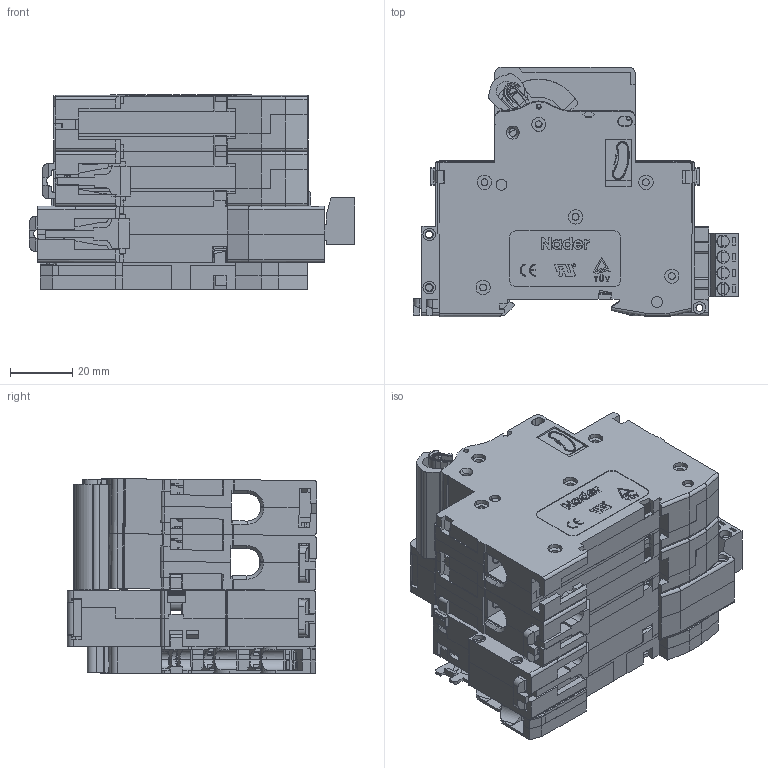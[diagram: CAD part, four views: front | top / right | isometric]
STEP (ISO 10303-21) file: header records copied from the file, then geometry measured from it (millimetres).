
FILE_DESCRIPTION (( 'STEP AP203' ), '1' );
FILE_NAME ('NDB2-63+Tm2GQ(2P)+OF2.STEP', '2018-08-28T02:42:21', ( '' ), ( '' ), 'SwSTEP 2.0', 'SolidWorks 2011', '' );
FILE_SCHEMA (( 'CONFIG_CONTROL_DESIGN' ));
Products named in the file (3): NDB2-63+Tm2GQ(2P)+OF2; OF2 耀倰芞; Tm2GQ+NDB2-63 2P
Assembly tree (2 placements, depth 2):
  NDB2-63+Tm2GQ(2P)+OF2
    OF2 耀倰芞
    Tm2GQ+NDB2-63 2P
Bounding box: 104.07 x 79.84 x 62.35 mm (x, y, z)
Surface area: 91010.9 mm2 (no closed solid volume)
Topology: 0 solids, 117 shells, 2315 faces, 10482 edges, 8088 vertices
Faces by surface type: plane 1456, cylinder 718, cone 83, bspline 34, torus 12, sphere 12
Entity records: 121613 total; most frequent: CARTESIAN_POINT 39031, DIRECTION 16388, ORIENTED_EDGE 15294, EDGE_CURVE 10482, VERTEX_POINT 8088, LINE 7262, VECTOR 7262, AXIS2_PLACEMENT_3D 4563
